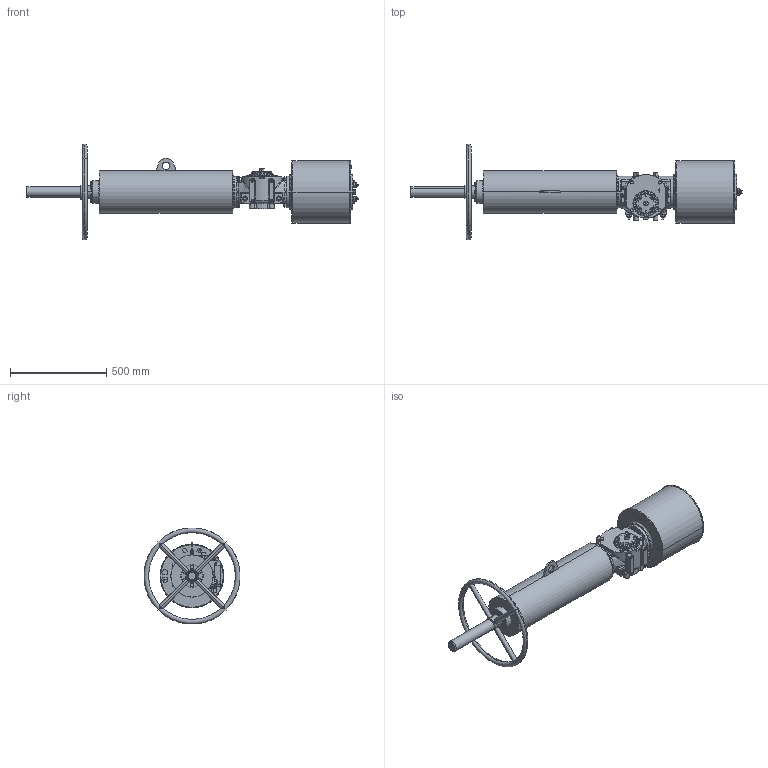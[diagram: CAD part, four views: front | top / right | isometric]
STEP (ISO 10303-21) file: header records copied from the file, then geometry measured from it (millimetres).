
FILE_DESCRIPTION (( 'STEP AP203' ), '1' );
FILE_NAME ('VTS1-300-SR-MS-FO.STEP', '2022-12-31T08:41:31', ( '' ), ( '' ), 'SwSTEP 2.0', 'SolidWorks 2020', '' );
FILE_SCHEMA (( 'CONFIG_CONTROL_DESIGN' ));
Length unit declared in the file: millimetre
Products named in the file (1): VTS1-300-SR-MS-FO
Bounding box: 1725.2 x 498.1 x 498.1 mm (x, y, z)
Volume: 61567085.4 mm3; surface area: 2144280.4 mm2
Topology: 30 solids, 37 shells, 2283 faces, 6215 edges, 3919 vertices
Faces by surface type: plane 766, cylinder 640, cone 422, bspline 227, sphere 124, torus 104
Entity records: 103102 total; most frequent: CARTESIAN_POINT 49713, ORIENTED_EDGE 11970, DIRECTION 10122, EDGE_CURVE 5985, AXIS2_PLACEMENT_3D 4083, VERTEX_POINT 3871, EDGE_LOOP 2508, ADVANCED_FACE 2283
